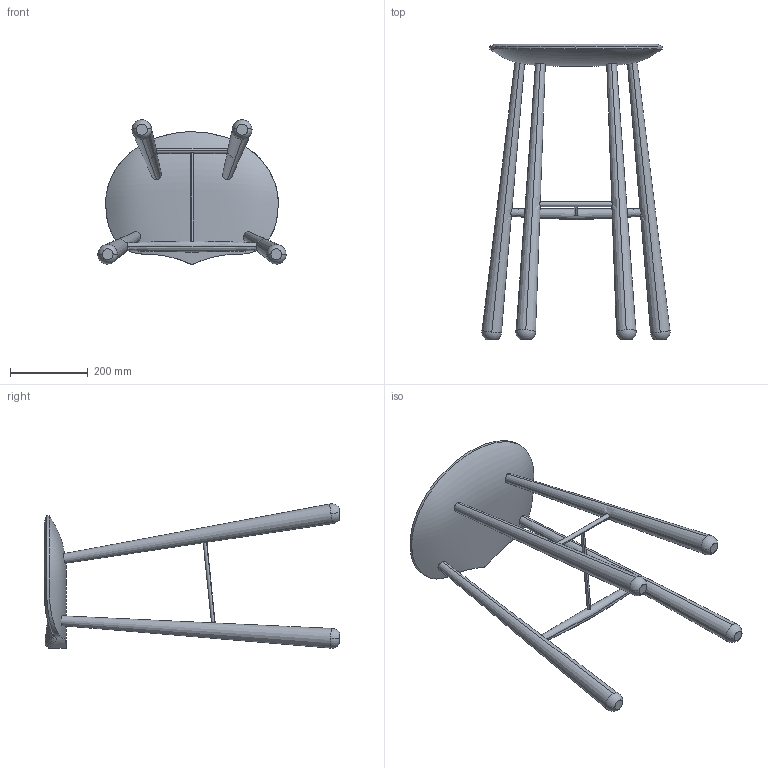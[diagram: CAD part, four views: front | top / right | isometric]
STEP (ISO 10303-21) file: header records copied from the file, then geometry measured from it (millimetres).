
FILE_DESCRIPTION (( 'STEP AP214' ), '1' );
FILE_NAME ('Bar Stool_KZ_STP.STEP', '2021-04-09T19:20:21', ( '' ), ( '' ), 'SwSTEP 2.0', 'SolidWorks 2021', '' );
FILE_SCHEMA (( 'AUTOMOTIVE_DESIGN' ));
Length unit declared in the file: millimetre
Products named in the file (1): Bar Stool_KZ_STP
Bounding box: 485.24 x 762.27 x 371.83 mm (x, y, z)
Volume: 6879858.2 mm3; surface area: 658725.7 mm2
Topology: 1 solids, 1 shells, 87 faces, 256 edges, 175 vertices
Faces by surface type: plane 32, bspline 22, cylinder 17, cone 8, sphere 8
Entity records: 14615 total; most frequent: CARTESIAN_POINT 11857, ORIENTED_EDGE 472, DIRECTION 304, EDGE_CURVE 236, VERTEX_POINT 163, AXIS2_PLACEMENT_3D 111, B_SPLINE_CURVE_WITH_KNOTS 106, EDGE_LOOP 105
